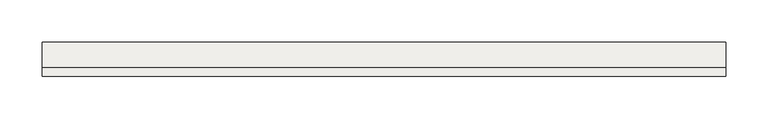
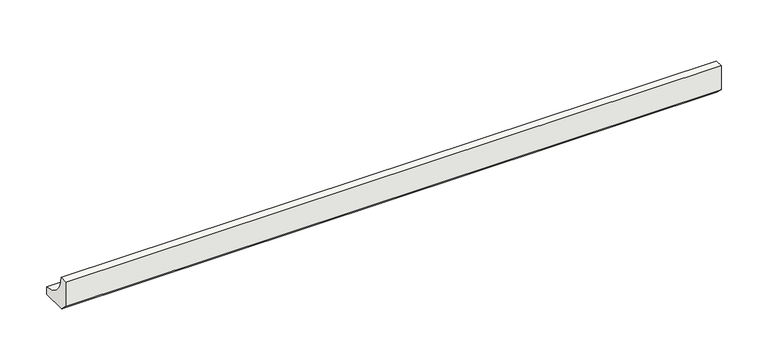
"""IFC4 building model written with IfcOpenShell, lengths in millimetres: slab geometry, ROSA GRES_188 : Pieza 188_Tresor_Java_Anti-Slip."""

from ifc_helpers import new_model, si_unit, point, frame, frame_2d, origin, place, context, project, spatial, polyline, circle_curve, trimmed, segment, composite_curve, outline, extrude, source, transform, mapped, element, save


def slab_b6d2d5f1(model_context):
    return source(origin(), model_context, "Body", "SweptSolid", [
        extrude(outline(composite_curve([segment(polyline([(0.0, 8.7114978), (0.0, 40.0), (9.9734114, 40.0)]), True, "CONTINUOUS"), segment(trimmed(circle_curve(frame_2d((39.9955547, 39.9955547)), 30.0221435), [point((9.9734114, 40.0))], [point((40.0, 9.9734114))], True, "CARTESIAN"), True, "CONTINUOUS"), segment(polyline([(40.0, 9.9734114), (40.0, 0.0), (8.7114978, 0.0), (0.0, 8.7114978)]), True, "CONTINUOUS")], self_intersect=False)), frame((0.0, 0.0, 0.0), z_axis=(1.0, 0.0, 0.0), x_axis=(0.0, 1.0, 0.0)), (0.0, 0.0, 1.0), 805.1233758),
    ])


if __name__ == "__main__":
    model = new_model("IFC4")
    model_context = context("Model", 3, world=origin())
    ifc_project = project(units=[si_unit("LENGTHUNIT", "METRE", prefix="MILLI")], contexts=[model_context])
    site = spatial("IfcSite", under=ifc_project)
    building = spatial("IfcBuilding", under=site)
    placement = place(None, origin())
    slab_shape = slab_b6d2d5f1(model_context)
    element("IfcSlab", 1, ObjectType="ROSA GRES_188 : Pieza 188_Tresor_Java_Anti-Slip", at=placement, inside=building, context=model_context, shape_type="MappedRepresentation", body=[
        mapped(slab_shape, transform((0.0, 0.0, 0.0), x_axis=(1.0, 0.0, 0.0), y_axis=(0.0, 1.0, 0.0), z_axis=(0.0, 0.0, 1.0))),
    ])
    save(model, "model.ifc")
